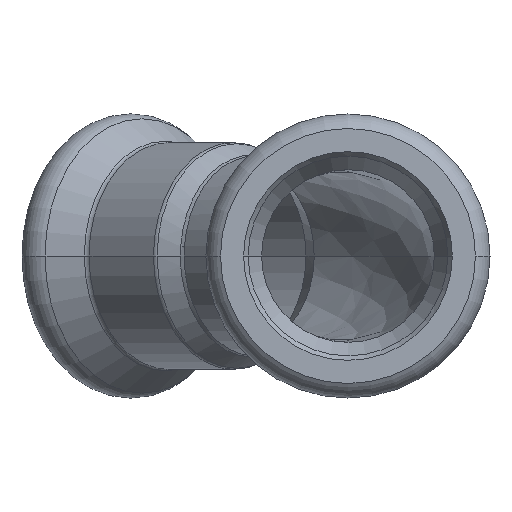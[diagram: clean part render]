
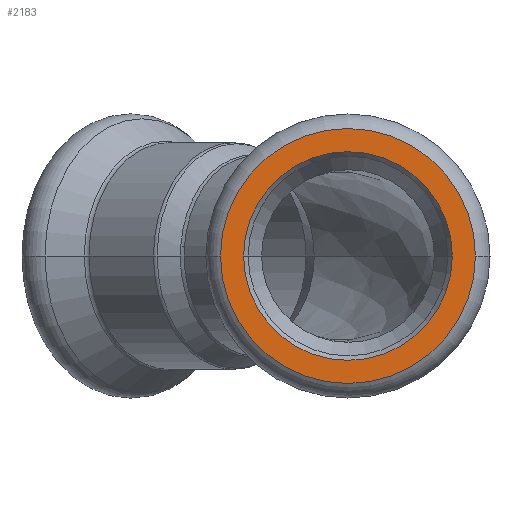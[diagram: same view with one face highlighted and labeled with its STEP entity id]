
A CAD part, left-side view. The second image highlights one B-rep face of the part: STEP entity #2183.
In plain terms, the highlighted planar face has unit normal (-1, 0, 0).
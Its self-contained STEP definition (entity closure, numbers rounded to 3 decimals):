
#60 = CARTESIAN_POINT ( 'NONE',  ( -22., -24.4, 0. ) ) ;
#63 = CARTESIAN_POINT ( 'NONE',  ( -22., -36., 0. ) ) ;
#357 = CIRCLE ( 'NONE', #1580, 11.6 ) ;
#415 = CIRCLE ( 'NONE', #2318, 14.171 ) ;
#545 = CARTESIAN_POINT ( 'NONE',  ( -22., -36., 0. ) ) ;
#564 = VERTEX_POINT ( 'NONE', #1372 ) ;
#582 = DIRECTION ( 'NONE',  ( 1., 0., 0. ) ) ;
#622 = DIRECTION ( 'NONE',  ( 0., -1., 0. ) ) ;
#648 = DIRECTION ( 'NONE',  ( 1., 0., 0. ) ) ;
#706 = CARTESIAN_POINT ( 'NONE',  ( -22., -47.6, 0. ) ) ;
#727 = CARTESIAN_POINT ( 'NONE',  ( -22., -36., 0. ) ) ;
#810 = AXIS2_PLACEMENT_3D ( 'NONE', #727, #2274, #2817 ) ;
#899 = EDGE_LOOP ( 'NONE', ( #1487, #1677 ) ) ;
#1080 = EDGE_CURVE ( 'NONE', #2448, #3412, #3437, .T. ) ;
#1136 = FACE_BOUND ( 'NONE', #3570, .T. ) ;
#1166 = FACE_OUTER_BOUND ( 'NONE', #899, .T. ) ;
#1206 = AXIS2_PLACEMENT_3D ( 'NONE', #545, #582, #1755 ) ;
#1372 = CARTESIAN_POINT ( 'NONE',  ( -22., -50.171, 0. ) ) ;
#1487 = ORIENTED_EDGE ( 'NONE', *, *, #1619, .F. ) ;
#1532 = CIRCLE ( 'NONE', #810, 14.171 ) ;
#1580 = AXIS2_PLACEMENT_3D ( 'NONE', #1654, #648, #2805 ) ;
#1610 = ORIENTED_EDGE ( 'NONE', *, *, #3027, .T. ) ;
#1619 = EDGE_CURVE ( 'NONE', #2702, #564, #415, .T. ) ;
#1654 = CARTESIAN_POINT ( 'NONE',  ( -22., -36., 0. ) ) ;
#1677 = ORIENTED_EDGE ( 'NONE', *, *, #3902, .F. ) ;
#1755 = DIRECTION ( 'NONE',  ( 0., 1., 0. ) ) ;
#1792 = PLANE ( 'NONE',  #3530 ) ;
#2183 = ADVANCED_FACE ( 'NONE', ( #1136, #1166 ), #1792, .T. ) ;
#2274 = DIRECTION ( 'NONE',  ( 1., 0., 0. ) ) ;
#2318 = AXIS2_PLACEMENT_3D ( 'NONE', #63, #3687, #3706 ) ;
#2368 = CARTESIAN_POINT ( 'NONE',  ( -22., -21.829, 0. ) ) ;
#2448 = VERTEX_POINT ( 'NONE', #706 ) ;
#2669 = DIRECTION ( 'NONE',  ( -1., 0., 0. ) ) ;
#2702 = VERTEX_POINT ( 'NONE', #3029 ) ;
#2805 = DIRECTION ( 'NONE',  ( 0., 1., 0. ) ) ;
#2817 = DIRECTION ( 'NONE',  ( 0., 1., 0. ) ) ;
#3027 = EDGE_CURVE ( 'NONE', #3412, #2448, #357, .T. ) ;
#3029 = CARTESIAN_POINT ( 'NONE',  ( -22., -21.829, 0. ) ) ;
#3412 = VERTEX_POINT ( 'NONE', #60 ) ;
#3437 = CIRCLE ( 'NONE', #1206, 11.6 ) ;
#3530 = AXIS2_PLACEMENT_3D ( 'NONE', #2368, #2669, #622 ) ;
#3570 = EDGE_LOOP ( 'NONE', ( #1610, #3916 ) ) ;
#3687 = DIRECTION ( 'NONE',  ( 1., 0., 0. ) ) ;
#3706 = DIRECTION ( 'NONE',  ( 0., 1., 0. ) ) ;
#3902 = EDGE_CURVE ( 'NONE', #564, #2702, #1532, .T. ) ;
#3916 = ORIENTED_EDGE ( 'NONE', *, *, #1080, .T. ) ;
